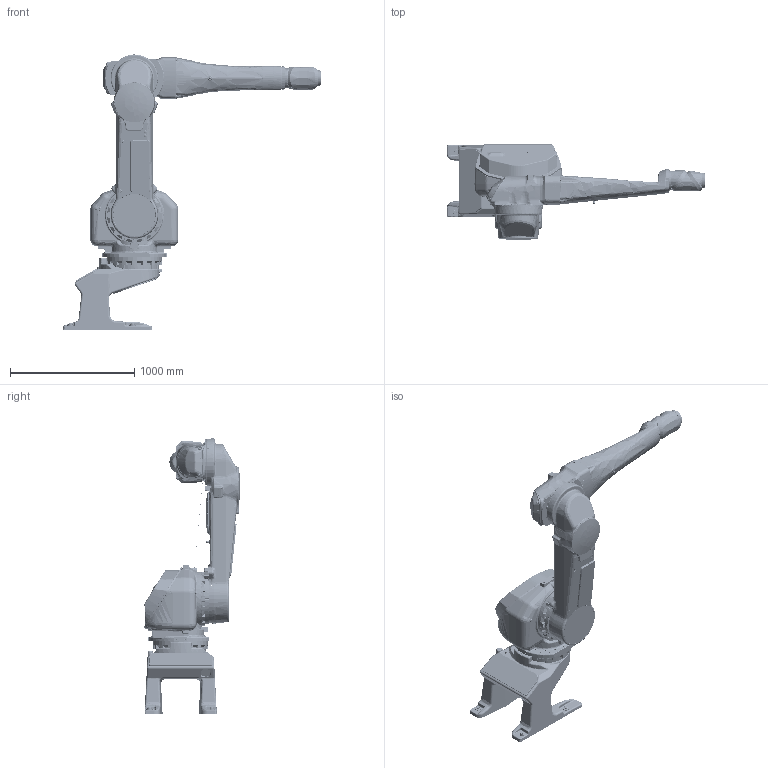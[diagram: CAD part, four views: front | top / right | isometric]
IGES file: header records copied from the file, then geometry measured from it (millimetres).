
Start section: SolidWorks IGES file using analytic representation for surfaces
Global section: file name: C:\Users\noahate\OneDrive - ABB\! 2021ABB tasks\New 3d Model fixing\IRB 5510-12\IGES\IRB5510-12_rev00_IGES_C\IRB5510-12_rev00_CAD.IGS; native system: SolidWorks 2018; preprocessor: SolidWorks 2018; author: NOAHATE; date: 210421.194422; units: millimetre
Bounding box: 2074.23 x 778.29 x 2210 mm (x, y, z)
Surface area: 11146710.6 mm2 (no closed solid volume)
Topology: 0 solids, 0 shells, 6330 faces, 84184 edges, 83970 vertices
Faces by surface type: bspline 3817, revolution 2513
